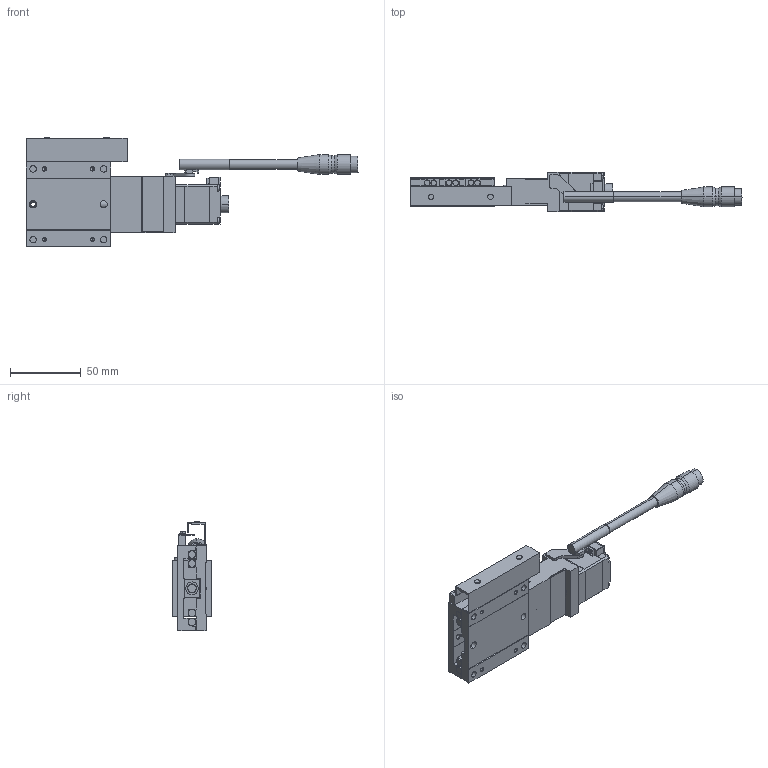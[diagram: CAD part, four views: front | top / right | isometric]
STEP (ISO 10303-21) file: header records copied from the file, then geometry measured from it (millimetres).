
FILE_DESCRIPTION(('STEP AP203'),'1');
FILE_NAME('C:/3D-Trans/3D_PG615T-L□-E+240116.step','2024-02-26T08:04:50',(' '),(' '),'Spatial InterOp 3D',' ',' ');
FILE_SCHEMA(('CONFIG_CONTROL_DESIGN'));
Length unit declared in the file: millimetre
Products named in the file (6): 1; 2; 3; 4; 5; 6
Bounding box: 235 x 28 x 77.4 mm (x, y, z)
Volume: 117314 mm3; surface area: 53597 mm2
Topology: 6 solids, 6 shells, 652 faces, 1634 edges, 1034 vertices
Faces by surface type: plane 373, cylinder 209, cone 70
Entity records: 19580 total; most frequent: DIRECTION 3440, CARTESIAN_POINT 3312, ORIENTED_EDGE 3228, EDGE_CURVE 1614, AXIS2_PLACEMENT_3D 1170, LINE 1100, VECTOR 1100, VERTEX_POINT 1034
